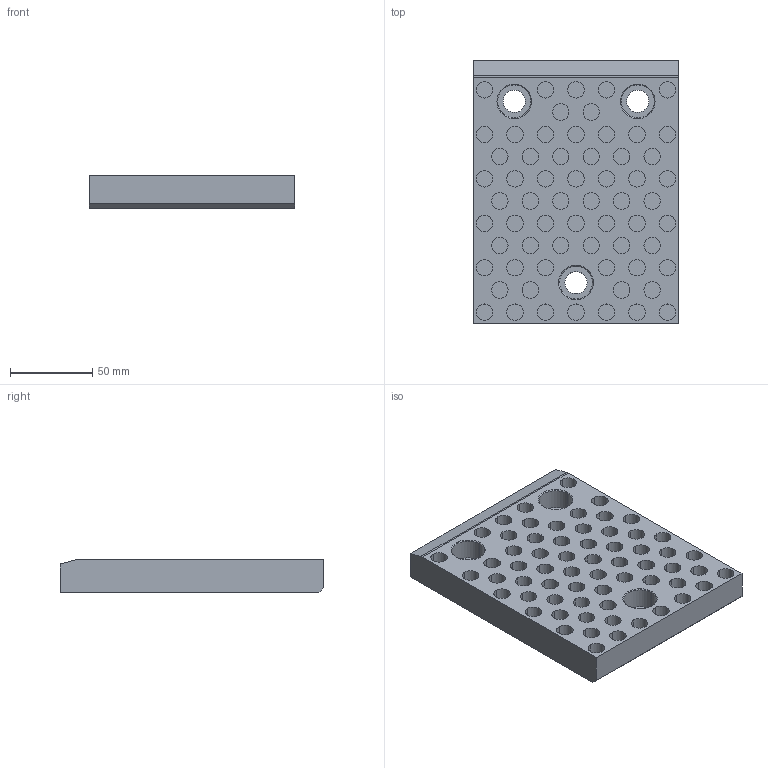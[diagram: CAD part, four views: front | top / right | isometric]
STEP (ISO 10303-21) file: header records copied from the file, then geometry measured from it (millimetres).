
FILE_DESCRIPTION (( 'STEP AP214' ), '1' );
FILE_NAME ('SW224-01-125x160.STEP', '2020-10-14T13:58:48', ( 'August' ), ( '' ), 'SwSTEP 2.0', 'SolidWorks 2018', '' );
FILE_SCHEMA (( 'AUTOMOTIVE_DESIGN' ));
Length unit declared in the file: millimetre
Products named in the file (1): SW224-01-125x160
Bounding box: 125 x 160 x 20 mm (x, y, z)
Volume: 336461.9 mm3; surface area: 71687.3 mm2
Topology: 1 solids, 1 shells, 219 faces, 447 edges, 296 vertices
Faces by surface type: cylinder 139, plane 74, cone 6
Entity records: 5943 total; most frequent: DIRECTION 1171, CARTESIAN_POINT 963, ORIENTED_EDGE 894, AXIS2_PLACEMENT_3D 504, EDGE_CURVE 447, VERTEX_POINT 296, EDGE_LOOP 291, CIRCLE 284
